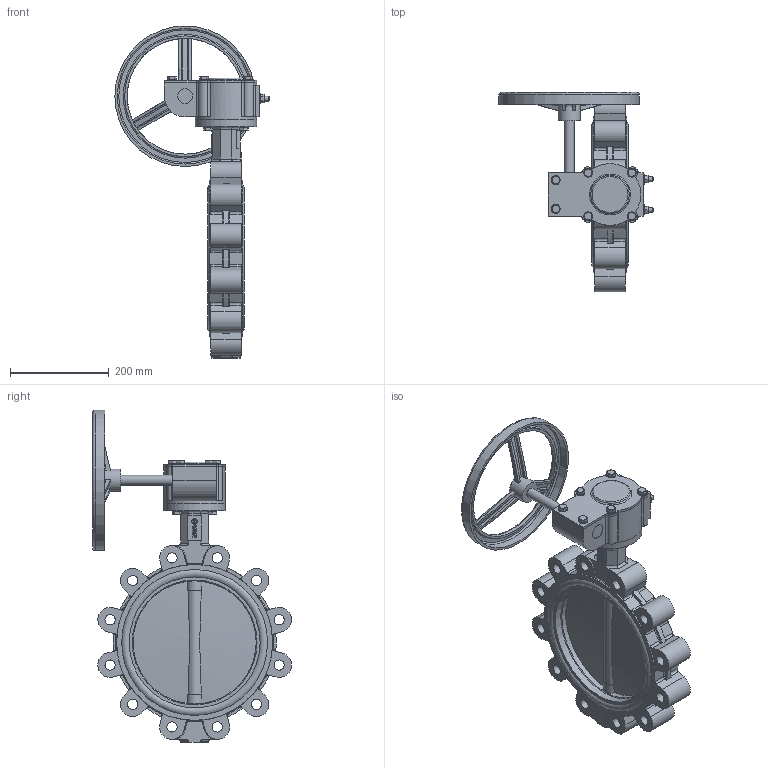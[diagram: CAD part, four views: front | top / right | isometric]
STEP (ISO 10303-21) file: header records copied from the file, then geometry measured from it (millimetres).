
FILE_DESCRIPTION(('STEP AP242'), '1');
FILE_NAME('Ïîâîðîòíûé çàòâîð ïîä ýëåêòðîïðèâîä', '', ('UNSPECIFIED'), ('UNSPECIFIED'), 'C3D Converter', 'C3D Toolkit', '');
FILE_SCHEMA(('AP242_MANAGED_MODEL_BASED_3D_ENGINEERING_MIM_LF { 1 0 10303 442 1 1 4 }'));
Length unit declared in the file: millimetre
Products named in the file (17): П
Assembly tree (36 placements, depth 3):
  (unnamed)
    (unnamed)
    П  x2
    (unnamed)
    (unnamed)
    (unnamed)
    (unnamed)
      (unnamed)
      (unnamed)
      (unnamed)
      (unnamed)
      (unnamed)  x6
      (unnamed)  x6
      (unnamed)
      (unnamed)  x2
      (unnamed)  x2
    (unnamed)  x4
    (unnamed)  x4
Bounding box: 313 x 403.36 x 673.5 mm (x, y, z)
Volume: 6633965.5 mm3; surface area: 1057065.1 mm2
Topology: 35 solids, 35 shells, 1084 faces, 2642 edges, 1686 vertices
Faces by surface type: plane 451, cylinder 280, extrusion 151, torus 102, bspline 52, cone 44, sphere 4
Full cylindrical faces by diameter (mm): 6 x2, 8.917 x2, 10 x30, 10.5 x10, 11.421 x1, 12 x4, 18 x10, 20 x3, 20.752 x12, 22 x5, 24.2 x1, 30 x2, 31.113 x5, 32.11 x4, 45 x1, 125 x2, 235 x1, 245 x1, 250 x1, 253.125 x2, 265.625 x2, 275 x1, 280.812 x4, 285 x1, 296 x4, 316.533 x2
Entity records: 41684 total; most frequent: CARTESIAN_POINT 17214, ORIENTED_EDGE 4394, DIRECTION 3941, EDGE_CURVE 2197, VERTEX_POINT 1480, AXIS2_PLACEMENT_3D 1415, EDGE_LOOP 1153, VECTOR 1111
